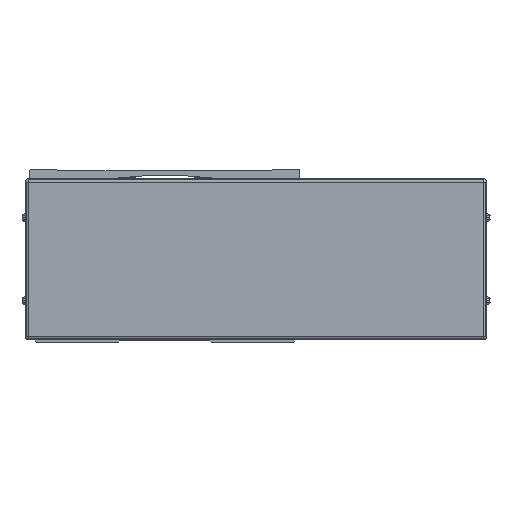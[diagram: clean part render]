
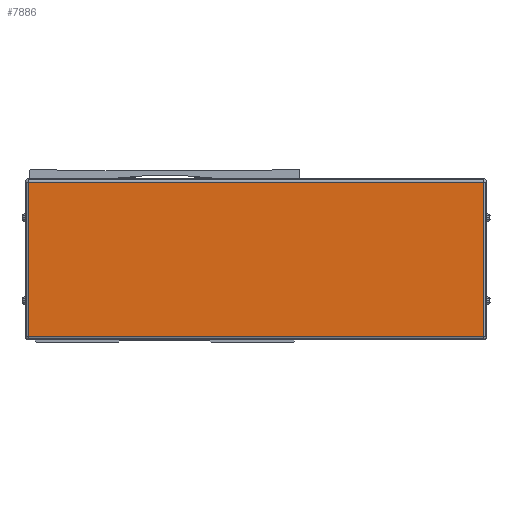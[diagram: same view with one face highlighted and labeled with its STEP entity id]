
A CAD part, front view. The second image highlights one B-rep face of the part: STEP entity #7886.
In plain terms, the highlighted planar face has unit normal (0, -1, 0).
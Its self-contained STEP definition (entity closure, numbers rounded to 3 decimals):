
#7886=ADVANCED_FACE('',(#16111),#16112,.T.);
#16111=FACE_OUTER_BOUND('',#26879,.T.);
#16112=PLANE('',#26880);
#26879=EDGE_LOOP('',(#50057,#50058,#50059,#50060));
#26880=AXIS2_PLACEMENT_3D('',#50061,#50062,#50063);
#50057=ORIENTED_EDGE('',*,*,#61507,.F.);
#50058=ORIENTED_EDGE('',*,*,#61629,.F.);
#50059=ORIENTED_EDGE('',*,*,#60153,.F.);
#50060=ORIENTED_EDGE('',*,*,#53860,.F.);
#50061=CARTESIAN_POINT('',(-545.,-372.778,-2.));
#50062=DIRECTION('',(0.,-1.0,0.));
#50063=DIRECTION('',(1.0,0.,0.));
#53860=EDGE_CURVE('',#64790,#64792,#64793,.T.);
#60153=EDGE_CURVE('',#64792,#73774,#74216,.T.);
#61507=EDGE_CURVE('',#64707,#64790,#75757,.T.);
#61629=EDGE_CURVE('',#73774,#64707,#75880,.T.);
#64707=VERTEX_POINT('',#80094);
#64790=VERTEX_POINT('',#80208);
#64792=VERTEX_POINT('',#80210);
#64793=LINE('',#80211,#80212);
#73774=VERTEX_POINT('',#93772);
#74216=LINE('',#94462,#94463);
#75757=LINE('',#96877,#96878);
#75880=LINE('',#97030,#97031);
#80094=CARTESIAN_POINT('',(-682.1,-372.778,44.5));
#80208=CARTESIAN_POINT('',(-407.9,-372.778,44.5));
#80210=CARTESIAN_POINT('',(-407.9,-372.778,-48.5));
#80211=CARTESIAN_POINT('',(-407.9,-372.778,-2.));
#80212=VECTOR('',#99688,10.0);
#93772=CARTESIAN_POINT('',(-682.1,-372.778,-48.5));
#94462=CARTESIAN_POINT('',(-545.,-372.778,-48.5));
#94463=VECTOR('',#107205,10.0);
#96877=CARTESIAN_POINT('',(-545.,-372.778,44.5));
#96878=VECTOR('',#108343,10.0);
#97030=CARTESIAN_POINT('',(-682.1,-372.778,-2.));
#97031=VECTOR('',#108400,10.0);
#99688=DIRECTION('',(0.,0.,-1.0));
#107205=DIRECTION('',(-1.0,0.,0.));
#108343=DIRECTION('',(1.0,0.,0.));
#108400=DIRECTION('',(0.,0.,1.0));
